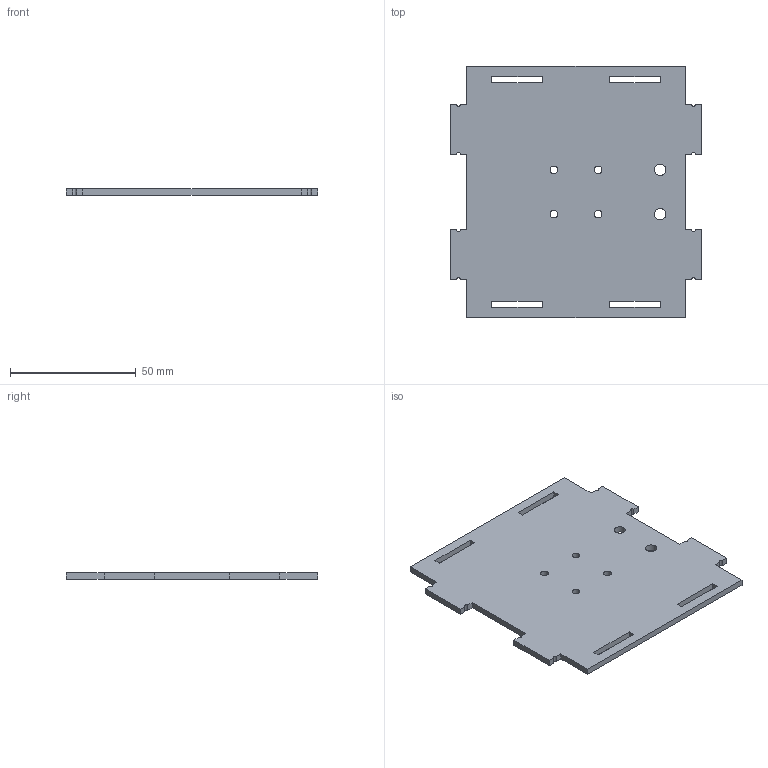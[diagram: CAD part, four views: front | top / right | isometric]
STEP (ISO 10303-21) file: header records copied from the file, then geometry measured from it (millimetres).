
FILE_DESCRIPTION(/* description */ (''),/* implementation_level */ '2;1');
FILE_NAME(/* name */ 'C:\Users\valen\Desktop\Estandar CubeSat - Programa AVES-20220531T050024Z-001\Estandar CubeSat - Programa AVES\3D - MODELS\STEP\6.Inferior.stp',/* time_stamp */ '2022-05-31T02:25:12-05:00',/* author */ ('valen'),/* organization */ (''),/* preprocessor_version */ 'ST-DEVELOPER v18.1',/* originating_system */ 'Autodesk Inventor 2022',/* authorisation */ '');
FILE_SCHEMA (('AUTOMOTIVE_DESIGN { 1 0 10303 214 3 1 1 }'));
Length unit declared in the file: millimetre
Products named in the file (1): Inferior
Bounding box: 100 x 100 x 2.5 mm (x, y, z)
Volume: 22379.7 mm3; surface area: 19601.9 mm2
Topology: 1 solids, 1 shells, 60 faces, 174 edges, 116 vertices
Faces by surface type: plane 46, cylinder 14
Full cylindrical faces by diameter (mm): 3 x4, 4.5 x2
Entity records: 2047 total; most frequent: CARTESIAN_POINT 351, ORIENTED_EDGE 348, DIRECTION 324, EDGE_CURVE 174, LINE 146, VECTOR 146, VERTEX_POINT 116, AXIS2_PLACEMENT_3D 89
